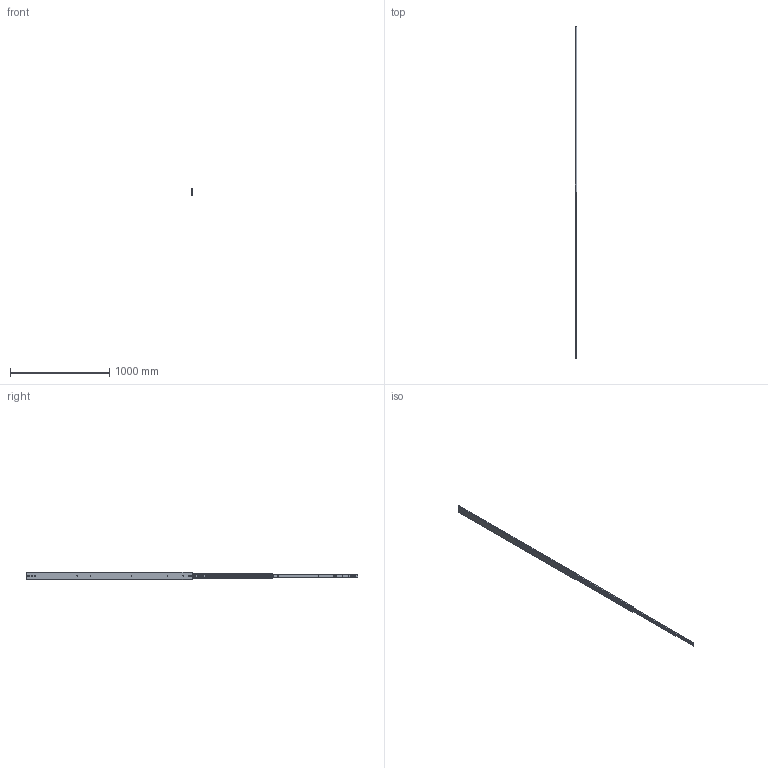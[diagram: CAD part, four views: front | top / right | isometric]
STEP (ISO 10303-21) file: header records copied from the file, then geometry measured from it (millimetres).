
FILE_DESCRIPTION(/* description */ ('Unknown'),/* implementation_level */ '2;1');
FILE_NAME(/* name */ '76J01-66 open',/* time_stamp */ '2024-07-30T14:43:21+08:00',/* author */ ('Unknown'),/* organization */ ('Unknown'),/* preprocessor_version */ 'ST-DEVELOPER v18.104',/* originating_system */ 'Solid Edge',/* authorisation */ 'Unknown');
FILE_SCHEMA (('AUTOMOTIVE_DESIGN {1 0 10303 214 3 1 1}'));
Length unit declared in the file: millimetre
Products named in the file (4): 76J01-66 open; 76J01 66 inch 內_0; 76J01 66 吋中_; 76J01 66 吋
Assembly tree (3 placements, depth 2):
  76J01-66 open
    76J01 66 inch 內_0
    76J01 66 吋中_
    76J01 66 吋
Bounding box: 19.3 x 3352.1 x 76.75 mm (x, y, z)
Volume: 1327103.6 mm3; surface area: 824601.1 mm2
Topology: 3 solids, 3 shells, 196 faces, 606 edges, 410 vertices
Faces by surface type: plane 104, cylinder 92
Full cylindrical faces by diameter (mm): 5.2 x16, 7.1 x2
Entity records: 7179 total; most frequent: CARTESIAN_POINT 1168, DIRECTION 1152, ORIENTED_EDGE 1140, EDGE_CURVE 570, VERTEX_POINT 392, LINE 384, VECTOR 384, AXIS2_PLACEMENT_3D 384
